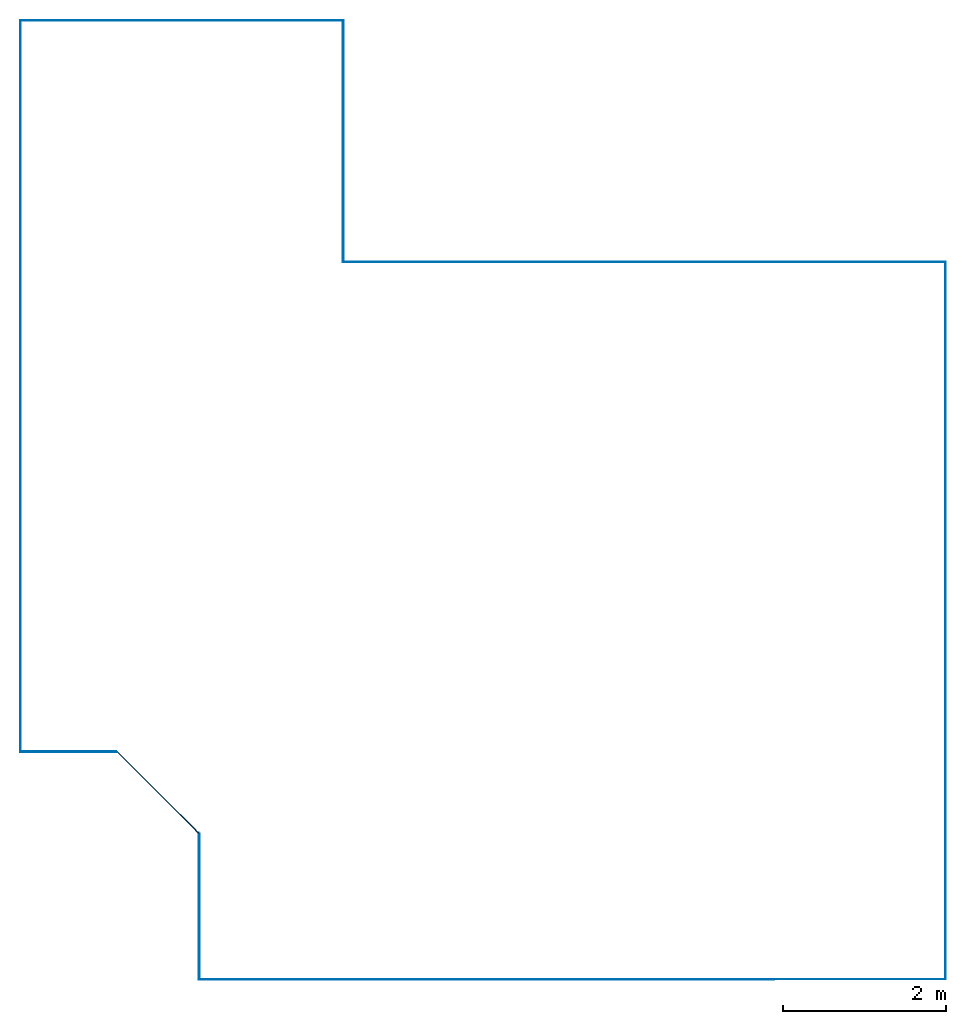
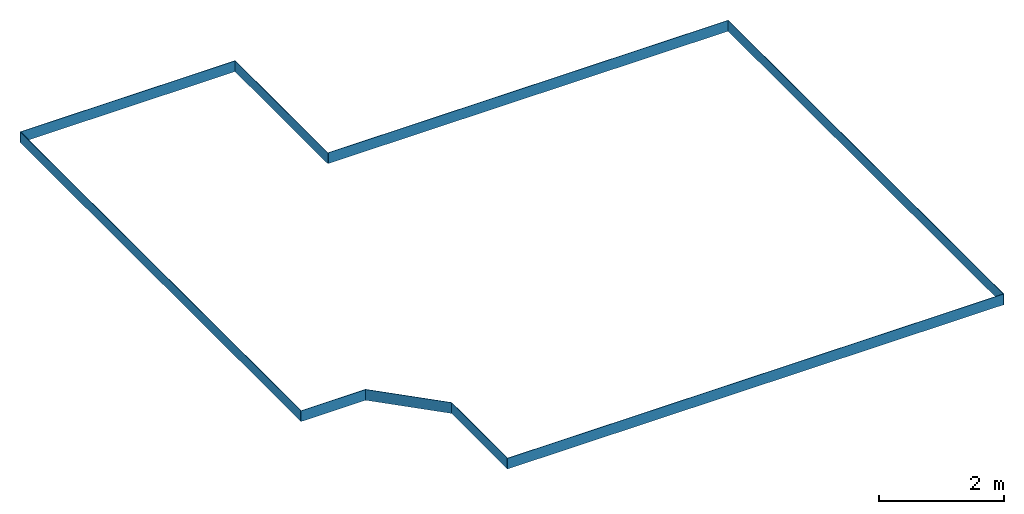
# One storey: 9 walls.
"""IFC2X3 building model written with IfcOpenShell, lengths in centimetres."""

from ifc_helpers import new_model, entity, si_unit, converted_unit, derived_unit, direction, frame, frame_2d, origin, place, context, subcontext, project, spatial, polyline, rectangle, outline, extrude, faceted_brep, material, layer, layer_set, layer_usage, type_object, element, save


model = new_model("IFC2X3")

# Units and contexts
model_context = context("Model", 3, precision=0.001, world=origin(), true_north=direction((6.123031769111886e-17, 1.0)))
body_context = subcontext(model_context, "Body", "Model", "MODEL_VIEW")
ifc_project = project(units=[si_unit("LENGTHUNIT", "METRE", prefix="CENTI"), si_unit("AREAUNIT", "SQUARE_METRE"), si_unit("VOLUMEUNIT", "CUBIC_METRE"), converted_unit("PLANEANGLEUNIT", "DEGREE", entity("IfcRatioMeasure", 0.017453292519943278), si_unit("PLANEANGLEUNIT", "RADIAN"), dimensions=[0, 0, 0, 0, 0, 0, 0]), si_unit("MASSUNIT", "GRAM", prefix="KILO"), derived_unit("MASSDENSITYUNIT", [(si_unit("MASSUNIT", "GRAM", prefix="KILO"), 1), (si_unit("LENGTHUNIT", "METRE"), -3)]), derived_unit("MOMENTOFINERTIAUNIT", [(si_unit("LENGTHUNIT", "METRE"), 4)]), si_unit("TIMEUNIT", "SECOND"), si_unit("FREQUENCYUNIT", "HERTZ"), si_unit("THERMODYNAMICTEMPERATUREUNIT", "DEGREE_CELSIUS"), derived_unit("THERMALTRANSMITTANCEUNIT", [(si_unit("MASSUNIT", "GRAM", prefix="KILO"), 1), (si_unit("THERMODYNAMICTEMPERATUREUNIT", "KELVIN"), -1), (si_unit("TIMEUNIT", "SECOND"), -3)]), derived_unit("VOLUMETRICFLOWRATEUNIT", [(si_unit("LENGTHUNIT", "METRE"), 3), (si_unit("TIMEUNIT", "SECOND"), -1)]), derived_unit("MASSFLOWRATEUNIT", [(si_unit("MASSUNIT", "GRAM", prefix="KILO"), 1), (si_unit("TIMEUNIT", "SECOND"), -1)]), derived_unit("ROTATIONALFREQUENCYUNIT", [(si_unit("TIMEUNIT", "SECOND"), -1)]), si_unit("ELECTRICCURRENTUNIT", "AMPERE"), si_unit("ELECTRICVOLTAGEUNIT", "VOLT"), si_unit("POWERUNIT", "WATT"), si_unit("FORCEUNIT", "NEWTON", prefix="KILO"), si_unit("ILLUMINANCEUNIT", "LUX"), si_unit("LUMINOUSFLUXUNIT", "LUMEN"), si_unit("LUMINOUSINTENSITYUNIT", "CANDELA"), derived_unit("USERDEFINED", [(si_unit("MASSUNIT", "GRAM", prefix="KILO"), -1), (si_unit("LENGTHUNIT", "METRE"), -2), (si_unit("TIMEUNIT", "SECOND"), 3), (si_unit("LUMINOUSFLUXUNIT", "LUMEN"), 1)]), derived_unit("SOUNDPOWERUNIT", [(si_unit("MASSUNIT", "GRAM", prefix="KILO"), 1), (si_unit("LENGTHUNIT", "METRE"), 2), (si_unit("TIMEUNIT", "SECOND"), -3)]), derived_unit("SOUNDPRESSUREUNIT", [(si_unit("MASSUNIT", "GRAM", prefix="KILO"), 1), (si_unit("LENGTHUNIT", "METRE"), -1), (si_unit("TIMEUNIT", "SECOND"), -2)]), derived_unit("LINEARVELOCITYUNIT", [(si_unit("LENGTHUNIT", "METRE"), 1), (si_unit("TIMEUNIT", "SECOND"), -1)]), si_unit("PRESSUREUNIT", "PASCAL"), derived_unit("USERDEFINED", [(si_unit("LENGTHUNIT", "METRE"), -2), (si_unit("MASSUNIT", "GRAM", prefix="KILO"), 1), (si_unit("TIMEUNIT", "SECOND"), -2)]), derived_unit("LINEARFORCEUNIT", [(si_unit("MASSUNIT", "GRAM", prefix="KILO"), 1), (si_unit("LENGTHUNIT", "METRE"), 1), (si_unit("TIMEUNIT", "SECOND"), -2), (si_unit("LENGTHUNIT", "METRE"), -1)]), derived_unit("PLANARFORCEUNIT", [(si_unit("MASSUNIT", "GRAM", prefix="KILO"), 1), (si_unit("LENGTHUNIT", "METRE"), 1), (si_unit("TIMEUNIT", "SECOND"), -2), (si_unit("LENGTHUNIT", "METRE"), -2)])], contexts=[model_context])

# Site, building, storey
site_placement = place(None, frame((1412.1772603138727, -701.9923171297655, 0.0)))
site = spatial("IfcSite", under=ifc_project, at=site_placement, Name="Default", CompositionType="ELEMENT")
building_placement = place(site_placement, origin())
building = spatial("IfcBuilding", under=site, at=building_placement, CompositionType="ELEMENT")
storey_placement = place(building_placement, frame((0.0, 0.0, -29.0)))
storey = spatial("IfcBuildingStorey", under=building, at=storey_placement, Name="-0.29_Dessous plancher", CompositionType="ELEMENT", Elevation=-29.000000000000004)

# Walls
ifc_material_1 = material(Name="Protection humidité")
ifc_layer_1 = layer(ifc_material_1, 1.0)
ifc_material_2 = material(Name="Blocs de maçonnerie en béton")
ifc_layer_2 = layer(ifc_material_2, 20.0)
ifc_layer_set = layer_set([ifc_layer_1, ifc_layer_2], Name="Mur de base:Mur de soubassement")
ifc_layer_usage_1 = layer_usage(ifc_layer_set, "AXIS2", "NEGATIVE", 10.5)
wall_type = type_object("IfcWallType", Name="Mur de base:Mur de soubassement", PredefinedType="STANDARD", material=ifc_layer_set)
wall_1_placement = place(storey_placement, frame((-1789.1772603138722, 1009.4923171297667, 0.0)))
element("IfcWallStandardCase", 1, at=wall_1_placement, inside=storey, type_object=wall_type, material=ifc_layer_usage_1, Name="Mur de base:Mur de soubassement", ObjectType="Mur de base:Mur de soubassement", context=body_context, shape_type="SweptSolid", body=[
    extrude(rectangle(XDim=0.9999999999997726, YDim=397.9999999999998, at=frame_2d((-0.16666666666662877, -3.268496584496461e-13), x_axis=(1.0, 0.0))), frame((199.0, 9.83333333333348, 0.0), z_axis=(0.0, 0.0, 1.0), x_axis=(0.0, -1.0, 0.0)), (0.0, 0.0, 1.0), 21.0),
])
wall_2_placement = place(storey_placement, frame((-1401.6772603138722, 1018.9923171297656, 0.0), z_axis=(0.0, 0.0, 1.0), x_axis=(0.0, -1.0, 0.0)))
element("IfcWall", 2, at=wall_2_placement, inside=storey, type_object=wall_type, Name="Mur de base:Mur de soubassement", ObjectType="Mur de base:Mur de soubassement", context=body_context, shape_type="Brep", body=[
    faceted_brep([(297.0, 10.500000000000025, 0.0), (0.0, 10.500000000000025, 0.0), (0.0, 10.500000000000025, 21.0), (296.0, 10.500000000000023, 21.0), (297.0, 10.500000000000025, 21.0), (0.0, 9.500000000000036, 0.0), (297.0, 9.500000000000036, 0.0), (297.0, 9.500000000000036, 21.0), (0.0, 9.500000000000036, 21.0)], [[[0, 1, 2, 3, 4]], [[5, 6, 7, 8]], [[3, 2, 8, 7, 4]], [[0, 4, 7, 6]], [[0, 6, 5, 1]], [[2, 1, 5, 8]]]),
])
ifc_layer_usage_2 = layer_usage(ifc_layer_set, "AXIS2", "NEGATIVE", 10.5)
wall_3_placement = place(storey_placement, frame((-1391.1772603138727, 712.4923171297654, 0.0)))
element("IfcWallStandardCase", 3, at=wall_3_placement, inside=storey, type_object=wall_type, material=ifc_layer_usage_2, Name="Mur de base:Mur de soubassement", ObjectType="Mur de base:Mur de soubassement", context=body_context, shape_type="SweptSolid", body=[
    extrude(rectangle(XDim=0.999999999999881, YDim=740.0000000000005, at=frame_2d((-0.10000000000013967, -73.80000000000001), x_axis=(1.0, 0.0))), frame((443.8000000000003, 9.900000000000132, 0.0), z_axis=(0.0, 0.0, 1.0), x_axis=(0.0, -1.0, 0.0)), (0.0, 0.0, 1.0), 20.999999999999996),
])
wall_4_placement = place(storey_placement, frame((-661.6772603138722, 721.992317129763, 0.0), z_axis=(0.0, 0.0, 1.0), x_axis=(0.0, -1.0, 0.0)))
element("IfcWall", 4, at=wall_4_placement, inside=storey, type_object=wall_type, Name="Mur de base:Mur de soubassement", ObjectType="Mur de base:Mur de soubassement", context=body_context, shape_type="Brep", body=[
    faceted_brep([(882.0, 10.500000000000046, 0.0), (0.0, 10.499999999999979, 0.0), (0.0, 10.499999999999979, 21.0), (882.0, 10.500000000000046, 21.0), (0.0, 9.49999999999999, 0.0), (882.0, 9.500000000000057, 0.0), (882.0, 9.500000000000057, 21.0), (881.0, 9.500000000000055, 21.0), (0.0, 9.49999999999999, 21.0)], [[[0, 1, 2, 3]], [[4, 5, 6, 7, 8]], [[6, 5, 0, 3]], [[3, 2, 8, 7, 6]], [[0, 5, 4, 1]], [[2, 1, 4, 8]]]),
])
ifc_layer_usage_3 = layer_usage(ifc_layer_set, "AXIS2", "NEGATIVE", 10.5)
wall_5_placement = place(storey_placement, frame((-652.1772603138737, -149.50768287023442, 0.0), z_axis=(0.0, 0.0, 1.0), x_axis=(-1.0, 0.0, 0.0)))
element("IfcWallStandardCase", 5, at=wall_5_placement, inside=storey, type_object=wall_type, material=ifc_layer_usage_3, Name="Mur de base:Mur de soubassement", ObjectType="Mur de base:Mur de soubassement", context=body_context, shape_type="SweptSolid", body=[
    extrude(rectangle(XDim=917.0000000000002, YDim=0.9999999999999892, at=frame_2d((-5.684341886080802e-14, 0.0), x_axis=(1.0, 0.0))), frame((458.49999999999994, 10.0, 0.0), z_axis=(0.0, 0.0, 1.0), x_axis=(-1.0, 0.0, 0.0)), (0.0, 0.0, 1.0), 20.999999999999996),
])
wall_6_placement = place(storey_placement, frame((-1558.6772603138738, -159.00768287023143, 0.0), z_axis=(0.0, 0.0, 1.0), x_axis=(0.0, 1.0, 0.0)))
element("IfcWall", 6, at=wall_6_placement, inside=storey, type_object=wall_type, Name="Mur de base:Mur de soubassement", ObjectType="Mur de base:Mur de soubassement", context=body_context, shape_type="Brep", body=[
    faceted_brep([(179.82842712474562, 10.500000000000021, 0.0), (0.0, 10.500000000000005, 0.0), (0.0, 10.500000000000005, 21.0), (178.41421356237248, 10.50000000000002, 21.0), (179.82842712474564, 10.500000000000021, 21.0), (0.0, 9.500000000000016, 0.0), (178.82842712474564, 9.500000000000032, 0.0), (178.8284271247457, 9.500000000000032, 21.0), (0.0, 9.500000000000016, 21.0)], [[[0, 1, 2, 3, 4]], [[5, 6, 7, 8]], [[3, 2, 8, 7, 4]], [[0, 4, 7, 6]], [[0, 6, 5, 1]], [[2, 1, 5, 8]]]),
])
ifc_layer_usage_4 = layer_usage(ifc_layer_set, "AXIS2", "NEGATIVE", 10.5)
wall_7_placement = place(storey_placement, frame((-1561.752639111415, 26.831151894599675, 0.0), z_axis=(0.0, 0.0, 1.0), x_axis=(-0.7071067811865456, 0.7071067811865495, 0.0)))
element("IfcWallStandardCase", 7, at=wall_7_placement, inside=storey, type_object=wall_type, material=ifc_layer_usage_4, Name="Mur de base:Mur de soubassement", ObjectType="Mur de base:Mur de soubassement", context=body_context, shape_type="SweptSolid", body=[
    extrude(outline(polyline([(-51.14644660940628, -50.43933982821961), (-49.73223304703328, -50.43933982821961), (50.43933982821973, 49.732233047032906), (50.43933982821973, 51.14644660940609), (-51.14644660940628, -50.43933982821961)])), frame((71.83199846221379, 10.0, 0.0), z_axis=(0.0, 0.0, 1.0), x_axis=(0.7071067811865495, -0.7071067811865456, 0.0)), (0.0, 0.0, 1.0), 21.0),
])
ifc_layer_usage_5 = layer_usage(ifc_layer_set, "AXIS2", "NEGATIVE", 10.5)
wall_8_placement = place(storey_placement, frame((-1669.7630467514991, 130.49231712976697, 0.0), z_axis=(0.0, 0.0, 1.0), x_axis=(-1.0, 0.0, 0.0)))
element("IfcWallStandardCase", 8, at=wall_8_placement, inside=storey, type_object=wall_type, material=ifc_layer_usage_5, Name="Mur de base:Mur de soubassement", ObjectType="Mur de base:Mur de soubassement", context=body_context, shape_type="SweptSolid", body=[
    extrude(outline(polyline([(-51.08742417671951, -50.23889603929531), (-49.673210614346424, -50.23889603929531), (33.35117600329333, 32.785490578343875), (34.05828278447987, 33.49259735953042), (33.35117600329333, 34.19970414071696), (-51.08742417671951, -50.23889603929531)])), frame((71.64852813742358, 9.899999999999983, 0.0), z_axis=(0.0, 0.0, 1.0), x_axis=(0.7071067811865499, -0.7071067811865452, 0.0)), (0.0, 0.0, 1.0), 20.999999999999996),
])
wall_9_placement = place(storey_placement, frame((-1778.6772603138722, 120.99231712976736, 0.0), z_axis=(0.0, 0.0, 1.0), x_axis=(0.0, 1.0, 0.0)))
element("IfcWall", 9, at=wall_9_placement, inside=storey, type_object=wall_type, Name="Mur de base:Mur de soubassement", ObjectType="Mur de base:Mur de soubassement", context=body_context, shape_type="Brep", body=[
    faceted_brep([(898.0, 10.499999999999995, 0.0), (0.0, 10.499999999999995, 0.0), (0.0, 10.499999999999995, 21.0), (898.0, 10.499999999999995, 21.0), (0.0, 9.500000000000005, 0.0), (898.0, 9.500000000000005, 0.0), (898.0, 9.500000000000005, 21.0), (0.0, 9.500000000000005, 21.0)], [[[0, 1, 2, 3]], [[4, 5, 6, 7]], [[3, 2, 7, 6]], [[0, 5, 4, 1]], [[0, 3, 6, 5]], [[2, 1, 4, 7]]]),
])

save(model, "model.ifc")
